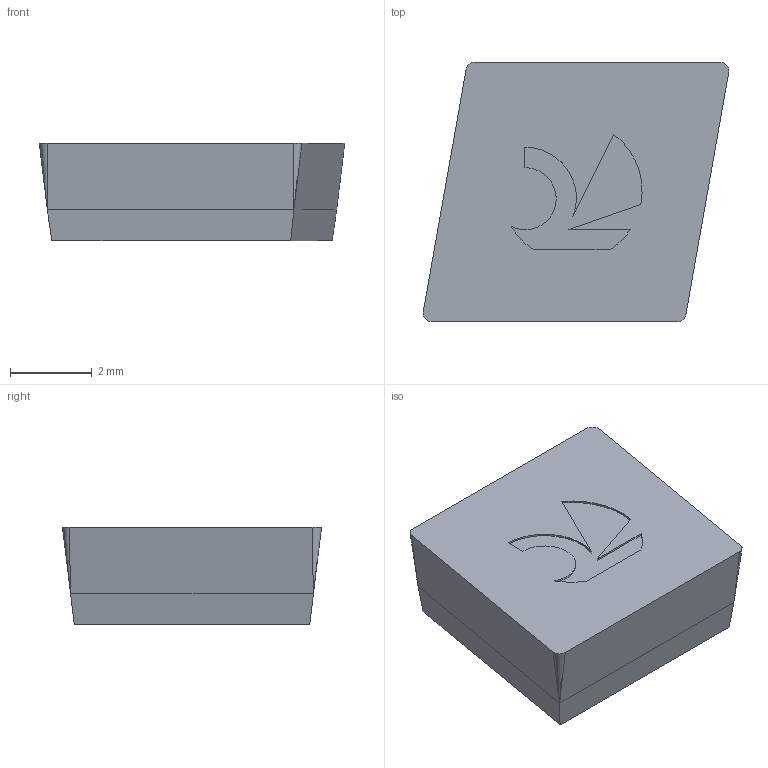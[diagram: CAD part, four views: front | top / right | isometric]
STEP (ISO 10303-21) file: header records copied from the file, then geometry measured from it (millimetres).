
FILE_DESCRIPTION(('no description'),'unknown implementation level');
FILE_NAME('solidggZVCxzteswH2f0rp_2K4MlDvAc_1.STP',' ',('CIMSOURCE GmbH'),('CADClick - KiM GmbH - www.kimweb.de'),'unknown preprocess','ACIS','unknown authorization');
FILE_SCHEMA(('automotive_design'));
Length unit declared in the file: millimetre
Products named in the file (1): CUT
Bounding box: 7.49 x 6.35 x 2.38 mm (x, y, z)
Volume: 88.6 mm3; surface area: 134.1 mm2
Topology: 1 solids, 1 shells, 26 faces, 65 edges, 38 vertices
Faces by surface type: plane 16, cylinder 6, cone 4
Entity records: 1474 total; most frequent: DIRECTION 135, CARTESIAN_POINT 128, STYLED_ITEM 126, PRESENTATION_STYLE_ASSIGNMENT 126, COLOUR_RGB 126, ORIENTED_EDGE 122, EDGE_CURVE 61, CURVE_STYLE 61
